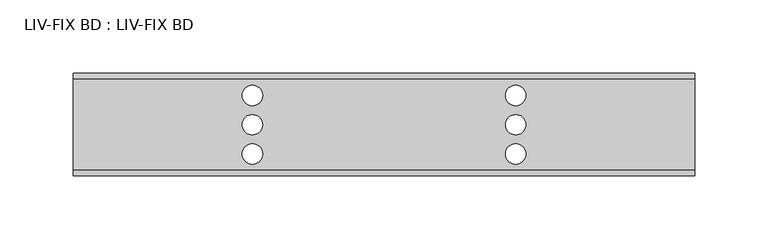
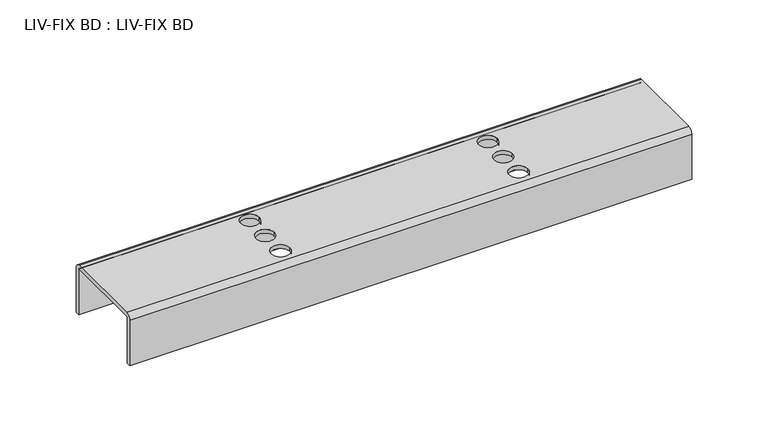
"""IFC4 building model written with IfcOpenShell, lengths in millimetres: flow terminal geometry, LIV-FIX BD : LIV-FIX BD."""

from ifc_helpers import new_model, si_unit, frame, origin, place, context, project, spatial, polyline, circle_curve, source, transform, mapped, element, save
from ifc_brep_helpers import plane_surface, cylinder_surface, revolved_surface, advanced_brep


def liv_fix_bd_liv_fix_bd_5eaa6276(model_context):
    return source(origin(), model_context, "Body", "AdvancedBrep", [
        advanced_brep(
        [(212.4841074, 340.0000269, 160.0), (212.4841074, 340.0000269, 196.0), (212.4841074, 336.000027, 200.0), (212.4841074, 274.0000278, 200.0), (212.4841074, 270.0000278, 196.0), (212.4841074, 270.0000261, 159.9999979), (212.4841074, 273.0000263, 159.9999979), (212.4841074, 273.0000263, 196.0), (212.4841074, 274.0000263, 197.0), (212.4841074, 336.0000284, 197.0), (212.4841074, 337.0000284, 196.0), (212.4841074, 337.0000284, 160.0), (-212.5, 340.0000269, 160.0), (-212.5, 337.0000284, 160.0), (-212.5, 337.0000284, 196.0), (-212.5, 336.0000284, 197.0), (-212.5, 274.0000263, 197.0), (-212.5, 273.0000263, 196.0), (-212.5, 273.0000263, 159.9999979), (-212.5, 270.0000261, 159.9999979), (-212.5, 270.0000261, 196.0), (-212.5, 274.0000278, 200.0), (-212.5, 336.000027, 200.0), (-212.5, 340.0000269, 196.0), (-83.0510012, 324.7500262, 200.0), (-96.9490038, 324.7500262, 200.0), (-83.0510012, 304.7500228, 200.0), (-96.9490038, 304.7500228, 200.0), (-83.0510012, 284.750024, 200.0), (-96.9490038, 284.750024, 200.0), (96.9490038, 324.7500262, 200.0), (83.0510012, 324.7500262, 200.0), (96.9490038, 304.7500228, 200.0), (83.0510012, 304.7500228, 200.0), (96.9490038, 284.750024, 200.0), (83.0510012, 284.750024, 200.0), (-96.9490038, 324.7500262, 197.0), (-83.0510012, 324.7500262, 197.0), (-96.9490038, 304.7500228, 197.0), (-83.0510012, 304.7500228, 197.0), (-96.9490038, 284.750024, 197.0), (-83.0510012, 284.750024, 197.0), (83.0510012, 324.7500262, 197.0), (96.9490038, 324.7500262, 197.0), (83.0510012, 304.7500228, 197.0), (96.9490038, 304.7500228, 197.0), (83.0510012, 284.750024, 197.0), (96.9490038, 284.750024, 197.0)],
        [
            (0, 1),
            (1, 2, circle_curve(frame((212.4841074, 336.000027, 196.0), z_axis=(1.0, 0.0, 0.0), x_axis=(0.0, 1.0, 0.0)), 4.0)),
            (2, 3),
            (3, 4, circle_curve(frame((212.4841074, 274.0000278, 196.0), z_axis=(1.0, 0.0, 0.0), x_axis=(0.0, 1.0, 0.0)), 4.0)),
            (4, 5),
            (5, 6),
            (6, 7),
            (7, 8, circle_curve(frame((212.4841074, 274.0000263, 196.0), z_axis=(-1.0, 0.0, 0.0), x_axis=(0.0, 1.0, 0.0)), 1.0)),
            (8, 9),
            (9, 10, circle_curve(frame((212.4841074, 336.0000284, 196.0), z_axis=(-1.0, 0.0, 0.0), x_axis=(0.0, 1.0, 0.0)), 1.0)),
            (10, 11),
            (11, 0),
            (12, 13),
            (13, 14),
            (14, 15, circle_curve(frame((-212.5, 336.0000284, 196.0), z_axis=(1.0, 0.0, 0.0), x_axis=(0.0, 1.0, 0.0)), 1.0)),
            (15, 16),
            (16, 17, circle_curve(frame((-212.5, 274.0000263, 196.0), z_axis=(1.0, 0.0, 0.0), x_axis=(0.0, 1.0, 0.0)), 1.0)),
            (17, 18),
            (18, 19),
            (19, 20),
            (20, 21, circle_curve(frame((-212.5, 274.0000278, 196.0), z_axis=(-1.0, 0.0, 0.0), x_axis=(0.0, 1.0, 0.0)), 4.0)),
            (21, 22),
            (22, 23, circle_curve(frame((-212.5, 336.000027, 196.0), z_axis=(-1.0, 0.0, 0.0), x_axis=(0.0, 1.0, 0.0)), 4.0)),
            (23, 12),
            (0, 12),
            (23, 1),
            (22, 2),
            (21, 3),
            (24, 25, circle_curve(frame((-90.0000025, 324.7500262, 200.0), z_axis=(0.0, 0.0, -1.0), x_axis=(1.0, 0.0, 0.0)), 6.9490013)),
            (25, 24, circle_curve(frame((-90.0000025, 324.7500262, 200.0), z_axis=(0.0, 0.0, -1.0), x_axis=(1.0, 0.0, 0.0)), 6.9490013)),
            (26, 27, circle_curve(frame((-90.0000025, 304.7500228, 200.0), z_axis=(0.0, 0.0, -1.0), x_axis=(1.0, 0.0, 0.0)), 6.9490013)),
            (27, 26, circle_curve(frame((-90.0000025, 304.7500228, 200.0), z_axis=(0.0, 0.0, -1.0), x_axis=(1.0, 0.0, 0.0)), 6.9490013)),
            (28, 29, circle_curve(frame((-90.0000025, 284.750024, 200.0), z_axis=(0.0, 0.0, -1.0), x_axis=(1.0, 0.0, 0.0)), 6.9490013)),
            (29, 28, circle_curve(frame((-90.0000025, 284.750024, 200.0), z_axis=(0.0, 0.0, -1.0), x_axis=(1.0, 0.0, 0.0)), 6.9490013)),
            (30, 31, circle_curve(frame((90.0000025, 324.7500262, 200.0), z_axis=(0.0, 0.0, -1.0), x_axis=(1.0, 0.0, 0.0)), 6.9490013)),
            (31, 30, circle_curve(frame((90.0000025, 324.7500262, 200.0), z_axis=(0.0, 0.0, -1.0), x_axis=(1.0, 0.0, 0.0)), 6.9490013)),
            (32, 33, circle_curve(frame((90.0000025, 304.7500228, 200.0), z_axis=(0.0, 0.0, -1.0), x_axis=(1.0, 0.0, 0.0)), 6.9490013)),
            (33, 32, circle_curve(frame((90.0000025, 304.7500228, 200.0), z_axis=(0.0, 0.0, -1.0), x_axis=(1.0, 0.0, 0.0)), 6.9490013)),
            (34, 35, circle_curve(frame((90.0000025, 284.750024, 200.0), z_axis=(0.0, 0.0, -1.0), x_axis=(1.0, 0.0, 0.0)), 6.9490013)),
            (35, 34, circle_curve(frame((90.0000025, 284.750024, 200.0), z_axis=(0.0, 0.0, -1.0), x_axis=(1.0, 0.0, 0.0)), 6.9490013)),
            (20, 4),
            (19, 5),
            (18, 6),
            (17, 7),
            (16, 8),
            (15, 9),
            (36, 37, circle_curve(frame((-90.0000025, 324.7500262, 197.0), z_axis=(0.0, 0.0, 1.0), x_axis=(1.0, 0.0, 0.0)), 6.9490013)),
            (37, 36, circle_curve(frame((-90.0000025, 324.7500262, 197.0), z_axis=(0.0, 0.0, 1.0), x_axis=(1.0, 0.0, 0.0)), 6.9490013)),
            (38, 39, circle_curve(frame((-90.0000025, 304.7500228, 197.0), z_axis=(0.0, 0.0, 1.0), x_axis=(1.0, 0.0, 0.0)), 6.9490013)),
            (39, 38, circle_curve(frame((-90.0000025, 304.7500228, 197.0), z_axis=(0.0, 0.0, 1.0), x_axis=(1.0, 0.0, 0.0)), 6.9490013)),
            (40, 41, circle_curve(frame((-90.0000025, 284.750024, 197.0), z_axis=(0.0, 0.0, 1.0), x_axis=(1.0, 0.0, 0.0)), 6.9490013)),
            (41, 40, circle_curve(frame((-90.0000025, 284.750024, 197.0), z_axis=(0.0, 0.0, 1.0), x_axis=(1.0, 0.0, 0.0)), 6.9490013)),
            (42, 43, circle_curve(frame((90.0000025, 324.7500262, 197.0), z_axis=(0.0, 0.0, 1.0), x_axis=(1.0, 0.0, 0.0)), 6.9490013)),
            (43, 42, circle_curve(frame((90.0000025, 324.7500262, 197.0), z_axis=(0.0, 0.0, 1.0), x_axis=(1.0, 0.0, 0.0)), 6.9490013)),
            (44, 45, circle_curve(frame((90.0000025, 304.7500228, 197.0), z_axis=(0.0, 0.0, 1.0), x_axis=(1.0, 0.0, 0.0)), 6.9490013)),
            (45, 44, circle_curve(frame((90.0000025, 304.7500228, 197.0), z_axis=(0.0, 0.0, 1.0), x_axis=(1.0, 0.0, 0.0)), 6.9490013)),
            (46, 47, circle_curve(frame((90.0000025, 284.750024, 197.0), z_axis=(0.0, 0.0, 1.0), x_axis=(1.0, 0.0, 0.0)), 6.9490013)),
            (47, 46, circle_curve(frame((90.0000025, 284.750024, 197.0), z_axis=(0.0, 0.0, 1.0), x_axis=(1.0, 0.0, 0.0)), 6.9490013)),
            (14, 10),
            (13, 11),
            (36, 25),
            (24, 37),
            (38, 27),
            (26, 39),
            (40, 29),
            (28, 41),
            (42, 31),
            (30, 43),
            (44, 33),
            (32, 45),
            (46, 35),
            (34, 47),
        ],
        [
            plane_surface(frame((212.4841074, 340.0000269, 196.0), z_axis=(1.0, 0.0, 0.0), x_axis=(0.0, 0.0, 1.0))),
            plane_surface(frame((-212.5, 340.0000269, 196.0), z_axis=(-1.0, 0.0, 0.0), x_axis=(0.0, 0.0, -1.0))),
            plane_surface(frame((212.4841074, 340.0000269, 160.0), z_axis=(0.0, 1.0, 0.0), x_axis=(-1.0, 0.0, 0.0))),
            cylinder_surface(frame((-212.5, 336.000027, 196.0), z_axis=(1.0, 0.0, 0.0), x_axis=(0.0, 1.0, 0.0)), 4.0),
            plane_surface(frame((212.4841074, 336.000027, 200.0), z_axis=(0.0, 0.0, 1.0), x_axis=(-1.0, 0.0, 0.0))),
            cylinder_surface(frame((-212.5, 274.0000278, 196.0), z_axis=(1.0, 0.0, 0.0), x_axis=(0.0, 1.0, 0.0)), 4.0),
            plane_surface(frame((212.4841074, 270.0000261, 196.0), z_axis=(0.0, -1.0, 0.0), x_axis=(-1.0, 0.0, 0.0))),
            plane_surface(frame((212.4841074, 270.0000261, 159.9999979), z_axis=(0.0, 0.0, -1.0), x_axis=(-1.0, 0.0, 0.0))),
            plane_surface(frame((212.4841074, 273.0000263, 159.9999979), z_axis=(0.0, 1.0, 0.0), x_axis=(-1.0, 0.0, 0.0))),
            revolved_surface(polyline([(-212.5, 275.0000263, 196.0), (212.48410739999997, 275.0000263, 196.0)]), (-212.5, 274.0000263, 196.0), (-1.0, 0.0, 0.0)),
            plane_surface(frame((212.4841074, 274.0000263, 197.0), z_axis=(0.0, 0.0, -1.0), x_axis=(-1.0, 0.0, 0.0))),
            revolved_surface(polyline([(-212.5, 337.0000284, 196.0), (212.48410739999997, 337.0000284, 196.0)]), (-212.5, 336.0000284, 196.0), (-1.0, 0.0, 0.0)),
            plane_surface(frame((212.4841074, 337.0000284, 196.0), z_axis=(0.0, -1.0, 0.0), x_axis=(-1.0, 0.0, 0.0))),
            plane_surface(frame((212.4841074, 337.0000284, 160.0), z_axis=(0.0, 0.0, -1.0), x_axis=(-1.0, 0.0, 0.0))),
            revolved_surface(polyline([(-83.05100119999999, 324.7500262, 200.0), (-83.05100119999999, 324.7500262, 197.0)]), (-90.0000025, 324.7500262, 160.0), (0.0, 0.0, 1.0)),
            revolved_surface(polyline([(-83.05100119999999, 304.7500228, 200.0), (-83.05100119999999, 304.7500228, 197.0)]), (-90.0000025, 304.7500228, 0.0), (0.0, 0.0, 1.0)),
            revolved_surface(polyline([(-83.05100119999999, 284.750024, 200.0), (-83.05100119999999, 284.750024, 197.0)]), (-90.0000025, 284.750024, 0.0), (0.0, 0.0, 1.0)),
            revolved_surface(polyline([(96.9490038, 324.7500262, 200.0), (96.9490038, 324.7500262, 197.0)]), (90.0000025, 324.7500262, 0.0), (0.0, 0.0, 1.0)),
            revolved_surface(polyline([(96.9490038, 304.7500228, 200.0), (96.9490038, 304.7500228, 197.0)]), (90.0000025, 304.7500228, 0.0), (0.0, 0.0, 1.0)),
            revolved_surface(polyline([(96.9490038, 284.750024, 200.0), (96.9490038, 284.750024, 197.0)]), (90.0000025, 284.750024, 0.0), (0.0, 0.0, 1.0)),
        ],
        [
            (0, [[1, 2, 3, 4, 5, 6, 7, 8, 9, 10, 11, 12]]),
            (1, [[13, 14, 15, 16, 17, 18, 19, 20, 21, 22, 23, 24]]),
            (2, [[-1, 25, -24, 26]]),
            (3, [[-2, -26, -23, 27]]),
            (4, [[-3, -27, -22, 28], [29, 30], [31, 32], [33, 34], [35, 36], [37, 38], [39, 40]]),
            (5, [[-4, -28, -21, 41]]),
            (6, [[-5, -41, -20, 42]]),
            (7, [[-6, -42, -19, 43]]),
            (8, [[-7, -43, -18, 44]]),
            (9, [[-8, -44, -17, 45]]),
            (10, [[-9, -45, -16, 46], [47, 48], [49, 50], [51, 52], [53, 54], [55, 56], [57, 58]]),
            (11, [[-10, -46, -15, 59]]),
            (12, [[-11, -59, -14, 60]]),
            (13, [[-12, -60, -13, -25]]),
            (14, [[61, -29, 62, -47]]),
            (14, [[-61, -48, -62, -30]]),
            (15, [[63, -31, 64, -49]]),
            (15, [[-63, -50, -64, -32]]),
            (16, [[65, -33, 66, -51]]),
            (16, [[-65, -52, -66, -34]]),
            (17, [[67, -35, 68, -53]]),
            (17, [[-67, -54, -68, -36]]),
            (18, [[69, -37, 70, -55]]),
            (18, [[-69, -56, -70, -38]]),
            (19, [[71, -39, 72, -57]]),
            (19, [[-71, -58, -72, -40]]),
        ],
    ),
    ])


if __name__ == "__main__":
    model = new_model("IFC4")
    model_context = context("Model", 3, world=origin())
    ifc_project = project(units=[si_unit("LENGTHUNIT", "METRE", prefix="MILLI")], contexts=[model_context])
    site = spatial("IfcSite", under=ifc_project)
    building = spatial("IfcBuilding", under=site)
    placement = place(None, origin())
    liv_fix_bd_liv_fix_bd_shape = liv_fix_bd_liv_fix_bd_5eaa6276(model_context)
    element("IfcFlowTerminal", 1, ObjectType="LIV-FIX BD : LIV-FIX BD", at=placement, inside=building, context=model_context, shape_type="MappedRepresentation", body=[
        mapped(liv_fix_bd_liv_fix_bd_shape, transform((0.0, 0.0, 0.0), x_axis=(1.0, 0.0, 0.0), y_axis=(0.0, 1.0, 0.0), z_axis=(0.0, 0.0, 1.0))),
    ])
    save(model, "model.ifc")
